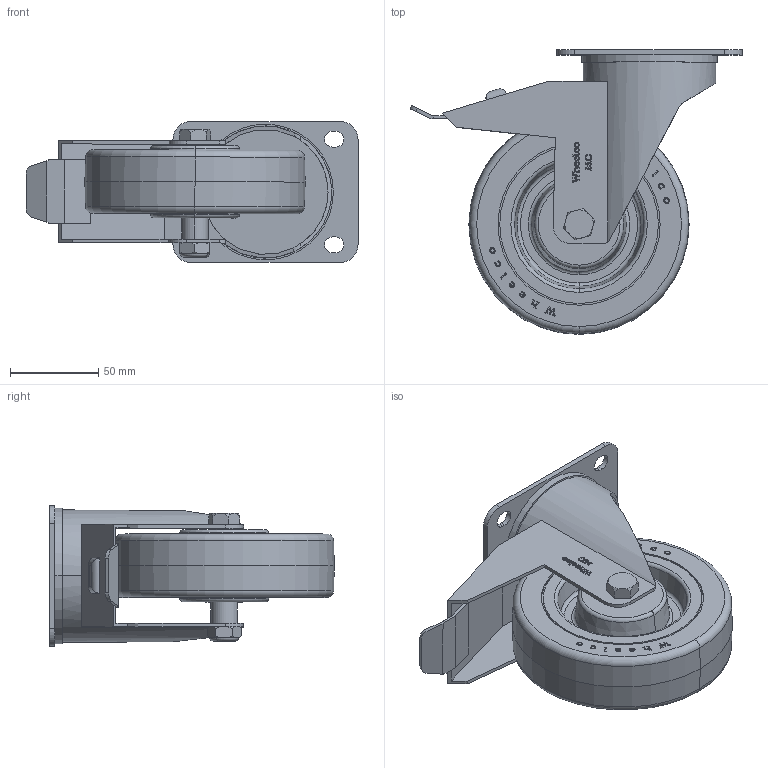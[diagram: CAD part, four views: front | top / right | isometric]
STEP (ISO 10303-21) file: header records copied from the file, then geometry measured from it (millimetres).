
FILE_DESCRIPTION (( 'STEP AP214' ), '1' );
FILE_NAME ('MCB125-P-TB Assembly.step', '2023-11-29T20:22:40', ( '' ), ( '' ), 'SwSTEP 2.0', 'SolidWorks 2022', '' );
FILE_SCHEMA (( 'AUTOMOTIVE_DESIGN' ));
Length unit declared in the file: millimetre
Products named in the file (7): MCB125; MC125-P-TB; MCB125-P-TB Assembly; MC 105x80 Swivel Plate; M10X65 STAINLESS BOLT; M10 Nyloc SS; SP15-10-47
Assembly tree (6 placements, depth 2):
  MCB125-P-TB Assembly
    MC 105x80 Swivel Plate
    M10 Nyloc SS
    M10X65 STAINLESS BOLT
    SP15-10-47
    MC125-P-TB
    MCB125
Bounding box: 188.39 x 161.5 x 80 mm (x, y, z)
Volume: 492090.1 mm3; surface area: 129274.8 mm2
Topology: 7 solids, 7 shells, 937 faces, 2533 edges, 1676 vertices
Faces by surface type: plane 479, bspline 265, cylinder 134, cone 33, torus 26
Entity records: 50268 total; most frequent: CARTESIAN_POINT 27199, ORIENTED_EDGE 5066, DIRECTION 3370, EDGE_CURVE 2533, VERTEX_POINT 1676, LINE 1592, VECTOR 1592, EDGE_LOOP 1021
